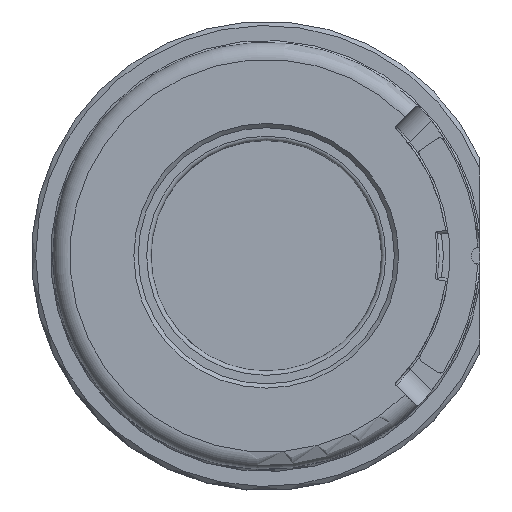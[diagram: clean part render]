
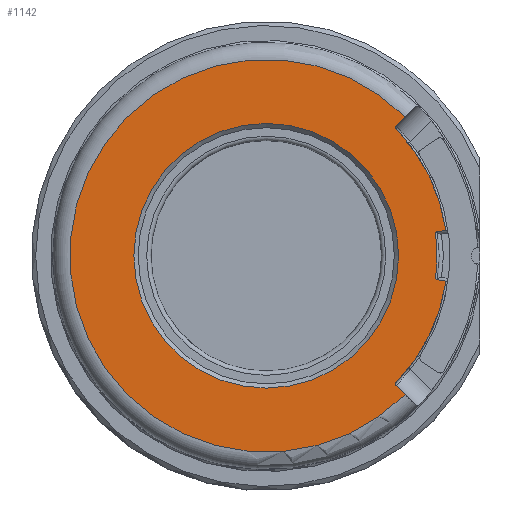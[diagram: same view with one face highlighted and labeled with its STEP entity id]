
A CAD part, top view. The second image highlights one B-rep face of the part: STEP entity #1142.
In plain terms, the highlighted planar face has unit normal (0, 0, 1) as drawn and (0, -1, 0) by its records, which use the part's own axes.
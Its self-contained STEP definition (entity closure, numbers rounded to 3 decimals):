
#95 = DIRECTION ( 'NONE',  ( 0., 0., 1. ) ) ;
#125 = CARTESIAN_POINT ( 'NONE',  ( 0., 0., 0. ) ) ;
#145 = VECTOR ( 'NONE', #2068, 1000. ) ;
#152 = DIRECTION ( 'NONE',  ( 0., 1., 0. ) ) ;
#170 = VERTEX_POINT ( 'NONE', #4011 ) ;
#194 = CARTESIAN_POINT ( 'NONE',  ( 0., 0., 0. ) ) ;
#202 = EDGE_CURVE ( 'NONE', #2895, #2214, #1272, .T. ) ;
#276 = CIRCLE ( 'NONE', #2351, 4.25 ) ;
#296 = CARTESIAN_POINT ( 'NONE',  ( -3.005, 0., 3.076 ) ) ;
#299 = EDGE_CURVE ( 'NONE', #1244, #3364, #2334, .T. ) ;
#306 = DIRECTION ( 'NONE',  ( 0., 0., 1. ) ) ;
#337 = AXIS2_PLACEMENT_3D ( 'NONE', #1318, #1348, #3608 ) ;
#350 = EDGE_LOOP ( 'NONE', ( #3002, #3165, #1700, #2405, #470, #3849, #842, #611, #1652, #2898, #926, #3109 ) ) ;
#401 = EDGE_CURVE ( 'NONE', #170, #2895, #1526, .T. ) ;
#465 = AXIS2_PLACEMENT_3D ( 'NONE', #125, #2342, #95 ) ;
#470 = ORIENTED_EDGE ( 'NONE', *, *, #4009, .F. ) ;
#482 = CIRCLE ( 'NONE', #2732, 3.1 ) ;
#541 = EDGE_CURVE ( 'NONE', #3706, #3770, #3789, .T. ) ;
#587 = CARTESIAN_POINT ( 'NONE',  ( -0.564, 0., 4.01 ) ) ;
#611 = ORIENTED_EDGE ( 'NONE', *, *, #1728, .F. ) ;
#631 = FACE_OUTER_BOUND ( 'NONE', #350, .T. ) ;
#640 = LINE ( 'NONE', #1171, #2417 ) ;
#696 = DIRECTION ( 'NONE',  ( 0., 1., 0. ) ) ;
#710 = DIRECTION ( 'NONE',  ( 0., 0., 1. ) ) ;
#725 = ORIENTED_EDGE ( 'NONE', *, *, #1579, .T. ) ;
#743 = PLANE ( 'NONE',  #3775 ) ;
#775 = CARTESIAN_POINT ( 'NONE',  ( -3.005, 0., 3.005 ) ) ;
#792 = LINE ( 'NONE', #775, #145 ) ;
#801 = FACE_BOUND ( 'NONE', #3538, .T. ) ;
#842 = ORIENTED_EDGE ( 'NONE', *, *, #541, .T. ) ;
#868 = CARTESIAN_POINT ( 'NONE',  ( 0., 0., 0. ) ) ;
#926 = ORIENTED_EDGE ( 'NONE', *, *, #3714, .T. ) ;
#959 = DIRECTION ( 'NONE',  ( 0., 1., 0. ) ) ;
#1009 = CIRCLE ( 'NONE', #337, 0.05 ) ;
#1040 = CARTESIAN_POINT ( 'NONE',  ( 0., 0., 0. ) ) ;
#1074 = LINE ( 'NONE', #2736, #1477 ) ;
#1084 = VECTOR ( 'NONE', #3449, 1000. ) ;
#1142 = ADVANCED_FACE ( 'NONE', ( #801, #631 ), #743, .F. ) ;
#1171 = CARTESIAN_POINT ( 'NONE',  ( 0., 0., 0. ) ) ;
#1244 = VERTEX_POINT ( 'NONE', #4001 ) ;
#1272 = CIRCLE ( 'NONE', #465, 4.25 ) ;
#1289 = CARTESIAN_POINT ( 'NONE',  ( 0., 0., 0. ) ) ;
#1295 = DIRECTION ( 'NONE',  ( 0., 0., 1. ) ) ;
#1318 = CARTESIAN_POINT ( 'NONE',  ( 3.005, 0., 3.076 ) ) ;
#1348 = DIRECTION ( 'NONE',  ( 0., 1., 0. ) ) ;
#1368 = EDGE_CURVE ( 'NONE', #1244, #2344, #3921, .T. ) ;
#1477 = VECTOR ( 'NONE', #2775, 1000. ) ;
#1526 = LINE ( 'NONE', #1884, #1084 ) ;
#1570 = CARTESIAN_POINT ( 'NONE',  ( 0., 0., 3.1 ) ) ;
#1579 = EDGE_CURVE ( 'NONE', #1921, #1921, #482, .T. ) ;
#1652 = ORIENTED_EDGE ( 'NONE', *, *, #1807, .T. ) ;
#1680 = DIRECTION ( 'NONE',  ( 0., 1., 0. ) ) ;
#1700 = ORIENTED_EDGE ( 'NONE', *, *, #1368, .F. ) ;
#1725 = CIRCLE ( 'NONE', #3949, 0.05 ) ;
#1728 = EDGE_CURVE ( 'NONE', #2964, #3770, #792, .T. ) ;
#1767 = CARTESIAN_POINT ( 'NONE',  ( -0.514, 0., 4.017 ) ) ;
#1788 = AXIS2_PLACEMENT_3D ( 'NONE', #1767, #152, #2400 ) ;
#1807 = EDGE_CURVE ( 'NONE', #2964, #3092, #3369, .T. ) ;
#1884 = CARTESIAN_POINT ( 'NONE',  ( 0., 0., 0. ) ) ;
#1921 = VERTEX_POINT ( 'NONE', #1570 ) ;
#1944 = DIRECTION ( 'NONE',  ( 0., 0., 1. ) ) ;
#2059 = CARTESIAN_POINT ( 'NONE',  ( -0.591, 0., 4.209 ) ) ;
#2068 = DIRECTION ( 'NONE',  ( 0.707, 0., -0.707 ) ) ;
#2074 = CARTESIAN_POINT ( 'NONE',  ( 0.514, 0., 4.017 ) ) ;
#2132 = DIRECTION ( 'NONE',  ( 0., 0., 1. ) ) ;
#2165 = CARTESIAN_POINT ( 'NONE',  ( 3.04, 0., 3.04 ) ) ;
#2214 = VERTEX_POINT ( 'NONE', #3595 ) ;
#2271 = EDGE_CURVE ( 'NONE', #3706, #3822, #276, .T. ) ;
#2280 = CARTESIAN_POINT ( 'NONE',  ( 0., 0., 0. ) ) ;
#2299 = CARTESIAN_POINT ( 'NONE',  ( 0.591, 0., 4.209 ) ) ;
#2334 = CIRCLE ( 'NONE', #1788, 0.05 ) ;
#2342 = DIRECTION ( 'NONE',  ( 0., 1., 0. ) ) ;
#2344 = VERTEX_POINT ( 'NONE', #2678 ) ;
#2351 = AXIS2_PLACEMENT_3D ( 'NONE', #1289, #696, #1944 ) ;
#2385 = CARTESIAN_POINT ( 'NONE',  ( -3.253, 0., 3.253 ) ) ;
#2400 = DIRECTION ( 'NONE',  ( 0., 0., 1. ) ) ;
#2405 = ORIENTED_EDGE ( 'NONE', *, *, #299, .T. ) ;
#2417 = VECTOR ( 'NONE', #3412, 1000. ) ;
#2424 = AXIS2_PLACEMENT_3D ( 'NONE', #296, #959, #1295 ) ;
#2490 = EDGE_CURVE ( 'NONE', #4063, #3092, #1074, .T. ) ;
#2491 = DIRECTION ( 'NONE',  ( 0., 0., 1. ) ) ;
#2585 = AXIS2_PLACEMENT_3D ( 'NONE', #194, #3108, #2132 ) ;
#2678 = CARTESIAN_POINT ( 'NONE',  ( 0.508, 0., 3.968 ) ) ;
#2732 = AXIS2_PLACEMENT_3D ( 'NONE', #2280, #3572, #306 ) ;
#2736 = CARTESIAN_POINT ( 'NONE',  ( 4.95, 0., 4.95 ) ) ;
#2775 = DIRECTION ( 'NONE',  ( 0.707, 0., 0.707 ) ) ;
#2895 = VERTEX_POINT ( 'NONE', #2299 ) ;
#2898 = ORIENTED_EDGE ( 'NONE', *, *, #2490, .F. ) ;
#2938 = CARTESIAN_POINT ( 'NONE',  ( -2.97, 0., 3.04 ) ) ;
#2964 = VERTEX_POINT ( 'NONE', #2385 ) ;
#3002 = ORIENTED_EDGE ( 'NONE', *, *, #401, .F. ) ;
#3030 = DIRECTION ( 'NONE',  ( 0., 0., 1. ) ) ;
#3092 = VERTEX_POINT ( 'NONE', #3136 ) ;
#3104 = DIRECTION ( 'NONE',  ( 0., 1., 0. ) ) ;
#3108 = DIRECTION ( 'NONE',  ( 0., -1., 0. ) ) ;
#3109 = ORIENTED_EDGE ( 'NONE', *, *, #202, .F. ) ;
#3136 = CARTESIAN_POINT ( 'NONE',  ( 3.253, 0., 3.253 ) ) ;
#3165 = ORIENTED_EDGE ( 'NONE', *, *, #3818, .T. ) ;
#3263 = CARTESIAN_POINT ( 'NONE',  ( -3.04, 0., 3.04 ) ) ;
#3322 = DIRECTION ( 'NONE',  ( 0., 1., 0. ) ) ;
#3364 = VERTEX_POINT ( 'NONE', #587 ) ;
#3369 = CIRCLE ( 'NONE', #2585, 4.6 ) ;
#3412 = DIRECTION ( 'NONE',  ( 0.139, 0., -0.99 ) ) ;
#3449 = DIRECTION ( 'NONE',  ( 0.139, 0., 0.99 ) ) ;
#3538 = EDGE_LOOP ( 'NONE', ( #725 ) ) ;
#3572 = DIRECTION ( 'NONE',  ( 0., 1., 0. ) ) ;
#3595 = CARTESIAN_POINT ( 'NONE',  ( 2.97, 0., 3.04 ) ) ;
#3608 = DIRECTION ( 'NONE',  ( 0., 0., 1. ) ) ;
#3706 = VERTEX_POINT ( 'NONE', #2938 ) ;
#3714 = EDGE_CURVE ( 'NONE', #4063, #2214, #1009, .T. ) ;
#3770 = VERTEX_POINT ( 'NONE', #3263 ) ;
#3775 = AXIS2_PLACEMENT_3D ( 'NONE', #1040, #1680, #710 ) ;
#3789 = CIRCLE ( 'NONE', #2424, 0.05 ) ;
#3818 = EDGE_CURVE ( 'NONE', #170, #2344, #1725, .T. ) ;
#3822 = VERTEX_POINT ( 'NONE', #2059 ) ;
#3849 = ORIENTED_EDGE ( 'NONE', *, *, #2271, .F. ) ;
#3921 = CIRCLE ( 'NONE', #4100, 4. ) ;
#3949 = AXIS2_PLACEMENT_3D ( 'NONE', #2074, #3322, #3030 ) ;
#4001 = CARTESIAN_POINT ( 'NONE',  ( -0.508, 0., 3.968 ) ) ;
#4009 = EDGE_CURVE ( 'NONE', #3822, #3364, #640, .T. ) ;
#4011 = CARTESIAN_POINT ( 'NONE',  ( 0.564, 0., 4.01 ) ) ;
#4063 = VERTEX_POINT ( 'NONE', #2165 ) ;
#4100 = AXIS2_PLACEMENT_3D ( 'NONE', #868, #3104, #2491 ) ;
